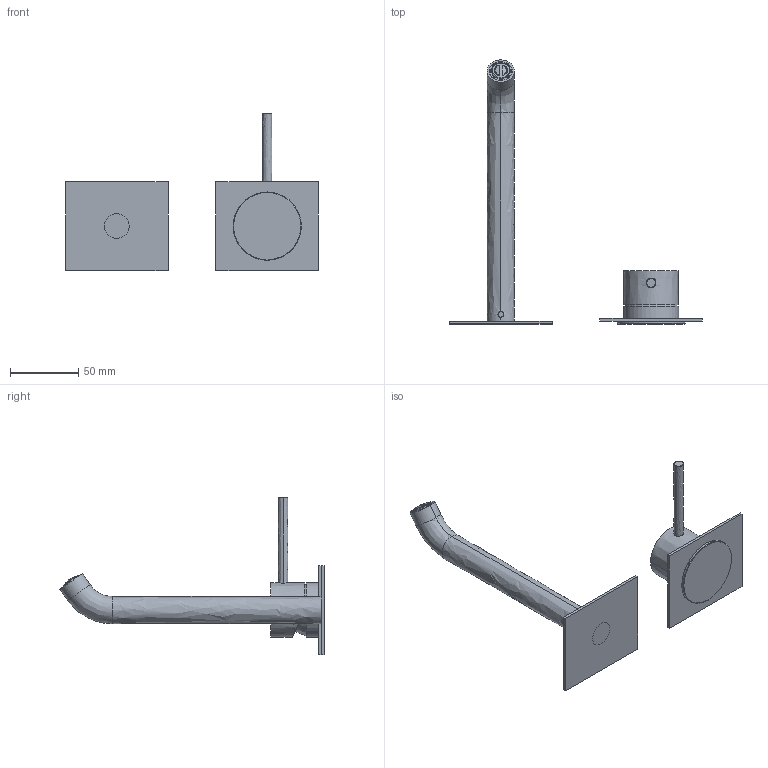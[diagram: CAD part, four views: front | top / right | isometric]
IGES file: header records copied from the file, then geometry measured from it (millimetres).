
Start section:  PTC IGES file: 6954721.igs
Global section: file name: 6954721.igs; native system: Creo Parametric by PTC Inc.; preprocessor: 2022014; author: carloff; organization: Unknown; date: 20251119.103951; units: millimetre
Bounding box: 185 x 193.13 x 114.9 mm (x, y, z)
Surface area: 56321.5 mm2 (no closed solid volume)
Topology: 0 solids, 0 shells, 1697 faces, 10058 edges, 10052 vertices
Faces by surface type: bspline 1419, revolution 275, extrusion 3
